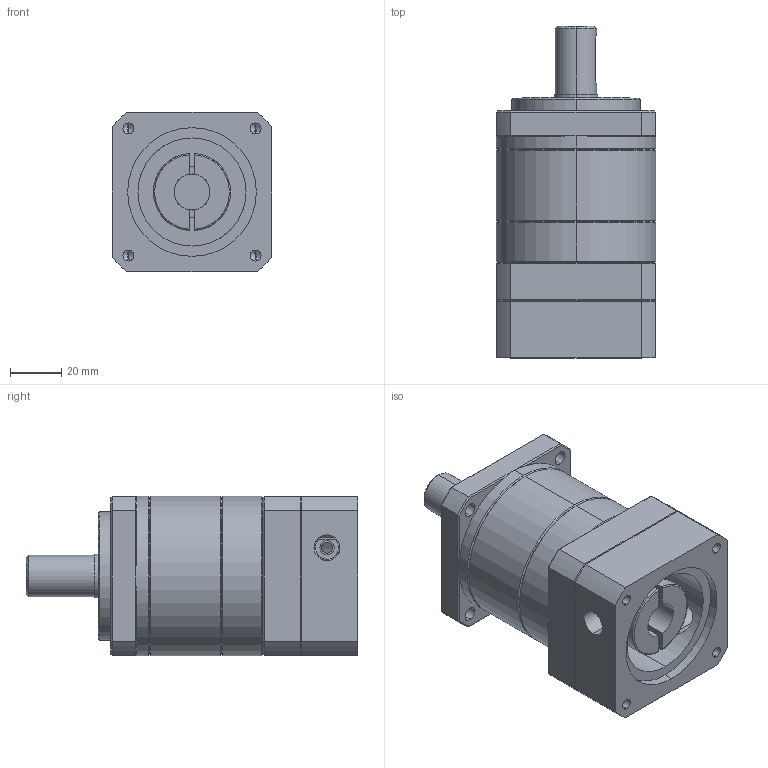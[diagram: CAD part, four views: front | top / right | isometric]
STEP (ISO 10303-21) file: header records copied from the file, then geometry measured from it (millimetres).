
FILE_DESCRIPTION (( 'STEP AP203' ), '1' );
FILE_NAME ('MF60X-L2£r50PCD£r70M5.STEP', '2014-03-31T08:30:56', ( 'KELLY' ), ( '' ), 'SwSTEP 2.0', 'SolidWorks 2012', '' );
FILE_SCHEMA (( 'CONFIG_CONTROL_DESIGN' ));
Length unit declared in the file: millimetre
Products named in the file (1): MF60X-L2｣r50PCD｣r70M5
Bounding box: 62 x 129 x 62 mm (x, y, z)
Volume: 298883.2 mm3; surface area: 54454.2 mm2
Topology: 3 solids, 3 shells, 178 faces, 422 edges, 255 vertices
Faces by surface type: cylinder 70, plane 64, cone 40, torus 4
Entity records: 5611 total; most frequent: CARTESIAN_POINT 1444, DIRECTION 876, ORIENTED_EDGE 824, EDGE_CURVE 412, AXIS2_PLACEMENT_3D 347, VERTEX_POINT 255, EDGE_LOOP 213, LINE 182
